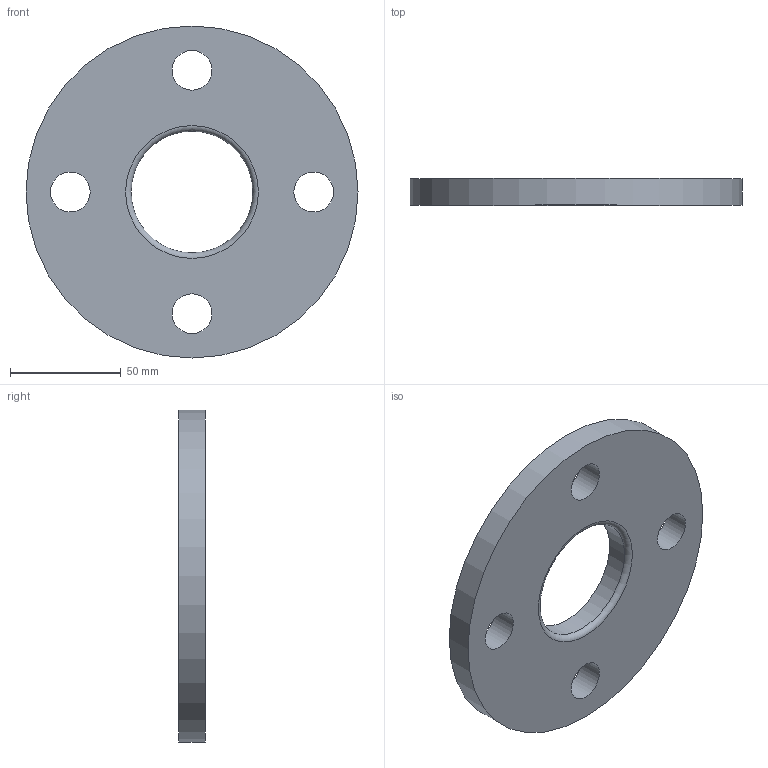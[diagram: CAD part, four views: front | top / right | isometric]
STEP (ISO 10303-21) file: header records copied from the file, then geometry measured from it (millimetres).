
FILE_DESCRIPTION(/* description */ (''),/* implementation_level */ '2;1');
FILE_NAME(/* name */ 'Z:\Geberit\Export\NewStep\361745.stp',/* time_stamp */ '2014-04-01T21:07:32+02:00',/* author */ ('nelson'),/* organization */ (''),/* preprocessor_version */ 'ST-DEVELOPER v15.2',/* originating_system */ 'Autodesk Inventor 2014',/* authorisation */ '');
FILE_SCHEMA (('AUTOMOTIVE_DESIGN { 1 0 10303 214 3 1 1 }'));
Length unit declared in the file: millimetre
Products named in the file (1): 361745
Bounding box: 150 x 12 x 150 mm (x, y, z)
Volume: 171096.6 mm3; surface area: 38815.5 mm2
Topology: 1 solids, 1 shells, 9 faces, 20 edges, 13 vertices
Faces by surface type: cylinder 6, plane 2, torus 1
Full cylindrical faces by diameter (mm): 18 x4, 55 x1, 150 x1
Entity records: 265 total; most frequent: DIRECTION 46, CARTESIAN_POINT 36, EDGE_LOOP 26, ORIENTED_EDGE 26, AXIS2_PLACEMENT_3D 23, FACE_BOUND 18, CIRCLE 13, VERTEX_POINT 13
